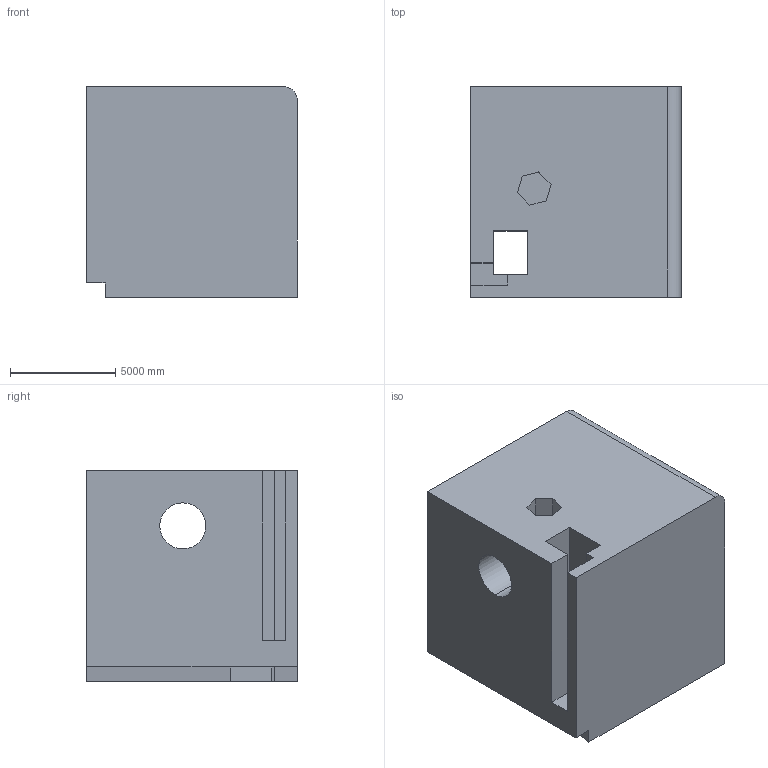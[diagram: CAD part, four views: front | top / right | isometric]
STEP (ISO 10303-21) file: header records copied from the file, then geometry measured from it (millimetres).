
FILE_DESCRIPTION (( 'STEP AP203' ), '1' );
FILE_NAME ('75.STEP', '2022-09-01T11:58:02', ( 'user' ), ( '' ), 'SwSTEP 2.0', 'SolidWorks 2021', '' );
FILE_SCHEMA (( 'CONFIG_CONTROL_DESIGN' ));
Length unit declared in the file: centimetre
Products named in the file (1): 75
Bounding box: 10000 x 10000 x 10000 mm (x, y, z)
Volume: 887452015363 mm3; surface area: 770972902.5 mm2
Topology: 1 solids, 1 shells, 33 faces, 93 edges, 62 vertices
Faces by surface type: plane 26, cylinder 7
Entity records: 1148 total; most frequent: CARTESIAN_POINT 189, ORIENTED_EDGE 186, DIRECTION 177, EDGE_CURVE 93, VECTOR 77, LINE 77, VERTEX_POINT 62, AXIS2_PLACEMENT_3D 50
